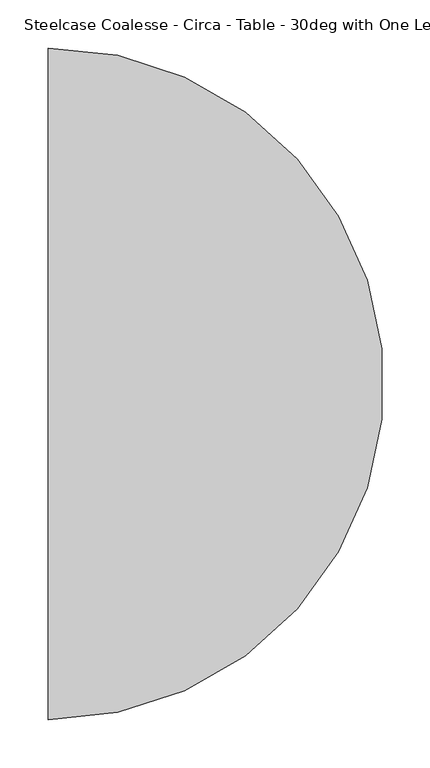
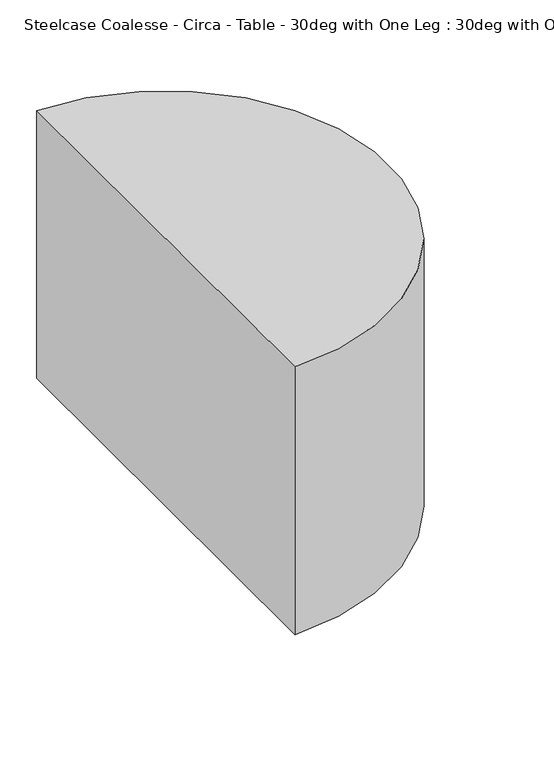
"""IFC4 building model written with IfcOpenShell, lengths in millimetres: furniture geometry, Steelcase Coalesse - Circa - Table - 30deg with One Leg : 30deg with One Leg."""

from ifc_helpers import new_model, si_unit, point, frame, frame_2d, origin, place, context, project, spatial, polyline, circle_curve, trimmed, segment, composite_curve, outline, extrude, source, transform, mapped, element, save
from ifc_brep_helpers import plane_surface, spline_surface, advanced_brep


def steelcase_coalesse_circa_table_30deg_with_one_leg_30deg_with_30ad734f(model_context):
    return source(origin(), model_context, "Body", "SolidModel", [
        advanced_brep(
        [(-343.9971948, 145.5677645, 0.0), (-361.9565852, 127.6083228, 0.0), (-368.6923179, 134.3440362, 0.0), (-368.6925555, 156.7935118, 0.0), (-361.9577328, 163.528251, 0.0), (-343.997623, 145.5690149, 159.258), (-379.9169176, 181.4882066, 159.258), (-386.6521, 174.7530049, 159.258), (-386.6522221, 116.3842862, 159.258), (-379.9172773, 109.6493607, 159.258)],
        [
            (0, 1),
            (1, 2),
            (2, 3),
            (3, 4),
            (4, 0),
            (5, 6),
            (6, 7),
            (7, 8),
            (8, 9),
            (9, 5),
            (5, 0),
            (4, 6),
            (3, 7),
            (2, 8),
            (1, 9),
        ],
        [
            plane_surface(frame((-361.0592772, 145.5683773, 0.0), z_axis=(0.0, 0.0, -1.0), x_axis=(0.707107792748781, -0.707105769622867, 0.0))),
            plane_surface(frame((-375.427228, 145.5687747, 159.258), z_axis=(0.0, 0.0, 1.0), x_axis=(0.707107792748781, -0.707105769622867, 0.0))),
            plane_surface(frame((-361.9572703, 163.5286107, 159.258), z_axis=(0.7071057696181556, 0.7071077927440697, -3.650428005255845e-06), x_axis=(-0.707107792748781, 0.707105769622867, 0.0))),
            spline_surface(1, 1, [[(-379.9169176, 181.4882066, 159.258), (-386.6521, 174.7530049, 159.258)], [(-361.9577328, 163.528251, 0.0), (-368.6925555, 156.7935118, 0.0)]], [2, 2], [2, 2], [0.0, 1.0], [0.0, 1.0]),
            spline_surface(1, 1, [[(-386.6521, 174.7530049, 159.258), (-386.6522221, 116.3842862, 159.258)], [(-368.6925555, 156.7935118, 0.0), (-368.6923179, 134.3440362, 0.0)]], [2, 2], [2, 2], [0.0, 1.0], [0.0, 1.0]),
            plane_surface(frame((-383.2847497, 113.0168234, 159.258), z_axis=(-0.6982811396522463, -0.6982831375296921, -0.1574932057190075), x_axis=(0.707107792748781, -0.707105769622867, 0.0))),
            spline_surface(1, 1, [[(-379.9172773, 109.6493607, 159.258), (-343.997623, 145.5690149, 159.258)], [(-361.9565852, 127.6083228, 0.0), (-343.9971948, 145.5677645, 0.0)]], [2, 2], [2, 2], [0.0, 1.0], [0.0, 1.0]),
        ],
        [
            (0, [[1, 2, 3, 4, 5]]),
            (1, [[6, 7, 8, 9, 10]]),
            (2, [[11, -5, 12, -6]]),
            (3, [[-12, -4, 13, -7]]),
            (4, [[-13, -3, 14, -8]]),
            (5, [[-14, -2, 15, -9]]),
            (6, [[-15, -1, -11, -10]]),
        ],
    ),
        extrude(outline(composite_curve([segment(polyline([(-663.917922, -216.2403236), (-663.917922, 482.2596764)]), True, "CONTINUOUS"), segment(trimmed(circle_curve(frame_2d((-663.917922, 133.0096764)), 349.25), [point((-663.917922, 482.2596764))], [point((-663.917922, -216.2403236))], False, "CARTESIAN"), True, "CONTINUOUS")], self_intersect=False)), frame((0.0, 0.0, 159.258), z_axis=(0.0, 0.0, 1.0), x_axis=(1.0, 0.0, 0.0)), (0.0, 0.0, 1.0), 442.214),
    ])


if __name__ == "__main__":
    model = new_model("IFC4")
    model_context = context("Model", 3, world=origin())
    ifc_project = project(units=[si_unit("LENGTHUNIT", "METRE", prefix="MILLI")], contexts=[model_context])
    site = spatial("IfcSite", under=ifc_project)
    building = spatial("IfcBuilding", under=site)
    placement = place(None, origin())
    steelcase_coalesse_circa_table_30deg_with_one_leg_30deg_with_shape = steelcase_coalesse_circa_table_30deg_with_one_leg_30deg_with_30ad734f(model_context)
    element("IfcFurniture", 1, ObjectType="Steelcase Coalesse - Circa - Table - 30deg with One Leg : 30deg with One Leg", at=placement, inside=building, context=model_context, shape_type="MappedRepresentation", body=[
        mapped(steelcase_coalesse_circa_table_30deg_with_one_leg_30deg_with_shape, transform((0.0, 0.0, 0.0), x_axis=(1.0, 0.0, 0.0), y_axis=(0.0, 1.0, 0.0), z_axis=(0.0, 0.0, 1.0))),
    ])
    save(model, "model.ifc")
